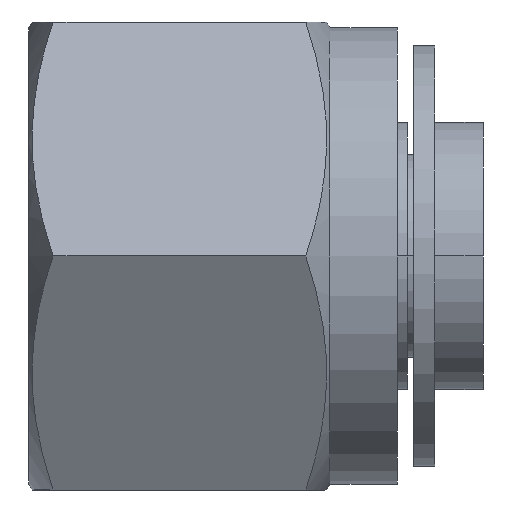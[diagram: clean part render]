
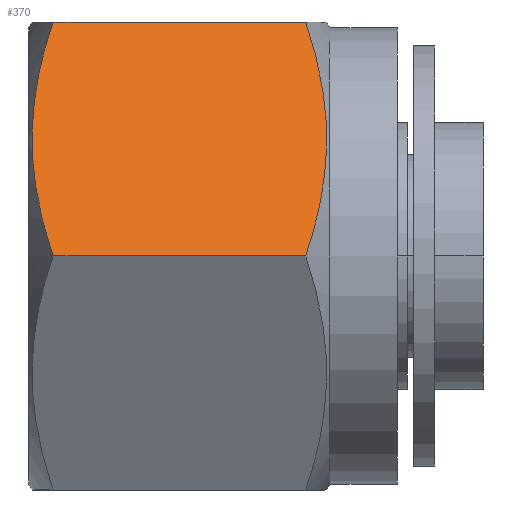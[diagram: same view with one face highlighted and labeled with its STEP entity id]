
A CAD part, front view. The second image highlights one B-rep face of the part: STEP entity #370.
In plain terms, the highlighted planar face has unit normal (0, -0.866, 0.5).
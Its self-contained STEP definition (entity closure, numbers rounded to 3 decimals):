
#311 = EDGE_CURVE ( 'NONE', #882, #892, #2308, .T. ) ;
#370 = ADVANCED_FACE ( 'NONE', ( #2437 ), #2434, .F. ) ;
#371 = EDGE_LOOP ( 'NONE', ( #372, #373, #375, #376 ) ) ;
#372 = ORIENTED_EDGE ( 'NONE', *, *, #895, .F. ) ;
#373 = ORIENTED_EDGE ( 'NONE', *, *, #374, .F. ) ;
#374 = EDGE_CURVE ( 'NONE', #869, #819, #2483, .T. ) ;
#375 = ORIENTED_EDGE ( 'NONE', *, *, #881, .F. ) ;
#376 = ORIENTED_EDGE ( 'NONE', *, *, #311, .T. ) ;
#819 = VERTEX_POINT ( 'NONE', #3159 ) ;
#869 = VERTEX_POINT ( 'NONE', #3290 ) ;
#881 = EDGE_CURVE ( 'NONE', #882, #869, #3314, .T. ) ;
#882 = VERTEX_POINT ( 'NONE', #3313 ) ;
#892 = VERTEX_POINT ( 'NONE', #3345 ) ;
#895 = EDGE_CURVE ( 'NONE', #819, #892, #2339, .T. ) ;
#2308 = LINE ( 'NONE', #2368, #2367 ) ;
#2339 = B_SPLINE_CURVE_WITH_KNOTS ( 'NONE', 3,
 ( #3338, #3337, #3100, #3394, #3393, #3392, #3391, #3390, #3389, #3388, #3387, #3386 ),
 .UNSPECIFIED., .F., .F.,
 ( 4, 2, 2, 2, 2, 4 ),
 ( 0., 0.003, 0.006, 0.008, 0.01, 0.013 ),
 .UNSPECIFIED. ) ;
#2366 = DIRECTION ( 'NONE',  ( -1., 0., 0. ) ) ;
#2367 = VECTOR ( 'NONE', #2366, 1000. ) ;
#2368 = CARTESIAN_POINT ( 'NONE',  ( 17.5, -6.417, 11.115 ) ) ;
#2434 = PLANE ( 'NONE',  #2435 ) ;
#2435 = AXIS2_PLACEMENT_3D ( 'NONE', #2486, #2485, #2484 ) ;
#2437 = FACE_OUTER_BOUND ( 'NONE', #371, .T. ) ;
#2480 = DIRECTION ( 'NONE',  ( -1., 0., 0. ) ) ;
#2481 = VECTOR ( 'NONE', #2480, 1000. ) ;
#2482 = CARTESIAN_POINT ( 'NONE',  ( 17.5, -12.834, 0. ) ) ;
#2483 = LINE ( 'NONE', #2482, #2481 ) ;
#2484 = DIRECTION ( 'NONE',  ( 0., 0.5, 0.866 ) ) ;
#2485 = DIRECTION ( 'NONE',  ( 0., 0.866, -0.5 ) ) ;
#2486 = CARTESIAN_POINT ( 'NONE',  ( 17.5, -6.417, 11.115 ) ) ;
#3100 = CARTESIAN_POINT ( 'NONE',  ( 0.594, -11.783, 1.821 ) ) ;
#3159 = CARTESIAN_POINT ( 'NONE',  ( 1.146, -12.834, 0. ) ) ;
#3290 = CARTESIAN_POINT ( 'NONE',  ( 13.154, -12.834, 0. ) ) ;
#3310 = CARTESIAN_POINT ( 'NONE',  ( 13.154, -6.417, 11.115 ) ) ;
#3313 = CARTESIAN_POINT ( 'NONE',  ( 13.154, -6.417, 11.115 ) ) ;
#3314 = B_SPLINE_CURVE_WITH_KNOTS ( 'NONE', 3,
 ( #3310, #3365, #3364, #3363, #3362, #3361, #3360, #3359, #3358, #3357, #3356, #3355 ),
 .UNSPECIFIED., .F., .F.,
 ( 4, 2, 2, 2, 2, 4 ),
 ( 0., 0.003, 0.006, 0.008, 0.01, 0.013 ),
 .UNSPECIFIED. ) ;
#3337 = CARTESIAN_POINT ( 'NONE',  ( 0.843, -12.311, 0.907 ) ) ;
#3338 = CARTESIAN_POINT ( 'NONE',  ( 1.146, -12.834, 0. ) ) ;
#3345 = CARTESIAN_POINT ( 'NONE',  ( 1.146, -6.417, 11.115 ) ) ;
#3355 = CARTESIAN_POINT ( 'NONE',  ( 13.154, -12.834, 0. ) ) ;
#3356 = CARTESIAN_POINT ( 'NONE',  ( 13.457, -12.31, 0.909 ) ) ;
#3357 = CARTESIAN_POINT ( 'NONE',  ( 13.707, -11.781, 1.825 ) ) ;
#3358 = CARTESIAN_POINT ( 'NONE',  ( 13.966, -10.978, 3.216 ) ) ;
#3359 = CARTESIAN_POINT ( 'NONE',  ( 14.034, -10.709, 3.682 ) ) ;
#3360 = CARTESIAN_POINT ( 'NONE',  ( 14.124, -10.167, 4.621 ) ) ;
#3361 = CARTESIAN_POINT ( 'NONE',  ( 14.147, -9.893, 5.096 ) ) ;
#3362 = CARTESIAN_POINT ( 'NONE',  ( 14.146, -9.074, 6.513 ) ) ;
#3363 = CARTESIAN_POINT ( 'NONE',  ( 14.051, -8.535, 7.446 ) ) ;
#3364 = CARTESIAN_POINT ( 'NONE',  ( 13.706, -7.469, 9.294 ) ) ;
#3365 = CARTESIAN_POINT ( 'NONE',  ( 13.457, -6.941, 10.208 ) ) ;
#3386 = CARTESIAN_POINT ( 'NONE',  ( 1.146, -6.417, 11.115 ) ) ;
#3387 = CARTESIAN_POINT ( 'NONE',  ( 0.843, -6.942, 10.206 ) ) ;
#3388 = CARTESIAN_POINT ( 'NONE',  ( 0.593, -7.471, 9.29 ) ) ;
#3389 = CARTESIAN_POINT ( 'NONE',  ( 0.334, -8.274, 7.899 ) ) ;
#3390 = CARTESIAN_POINT ( 'NONE',  ( 0.266, -8.543, 7.433 ) ) ;
#3391 = CARTESIAN_POINT ( 'NONE',  ( 0.176, -9.085, 6.494 ) ) ;
#3392 = CARTESIAN_POINT ( 'NONE',  ( 0.153, -9.359, 6.019 ) ) ;
#3393 = CARTESIAN_POINT ( 'NONE',  ( 0.154, -10.178, 4.602 ) ) ;
#3394 = CARTESIAN_POINT ( 'NONE',  ( 0.249, -10.716, 3.669 ) ) ;
